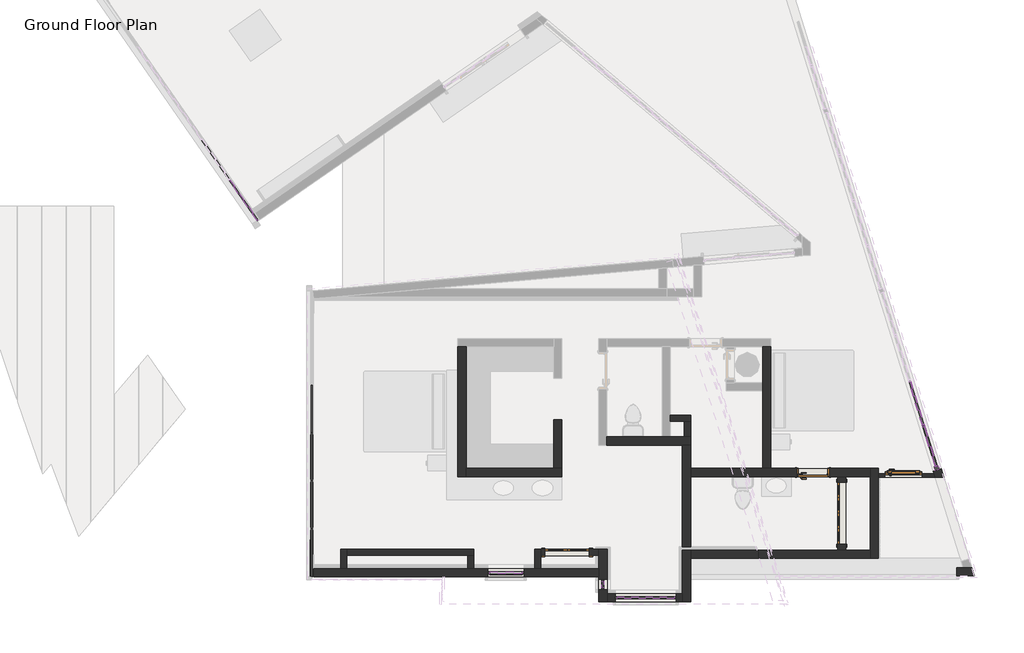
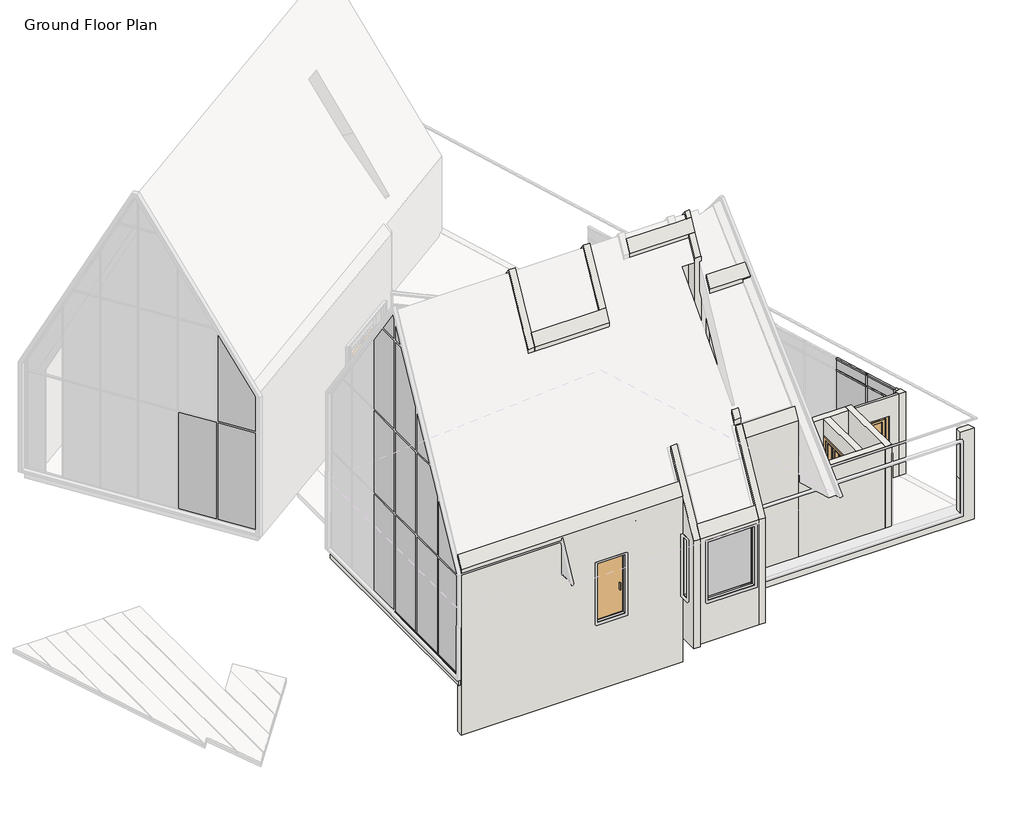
# One storey, part 1 of 5: 26 walls, 24 members, 13 plates, 5 doors.
"""IFC4 building model written with IfcOpenShell, lengths in millimetres."""

from ifc_helpers import new_model, si_unit, frame, origin, origin_with_axes, place, context, project, spatial, polyline, outline, extrude, faceted_brep, transform, mapped, element, save
from components import door_bce1670d, doors_intsgl_810x2110mm_068f3592, m_bifold_2_panel_1100mm_63e763a0, m_bifold_4_panel_1525_x_2134mm_3085d777, m_door_curtain_wall_single_glass_m_door_curtain_wall_single_5ee6a53d, rectangular_mullion_50x150mm_6ccf2dc3, rectangular_mullion_50x150mm_cb55ee1b, rectangular_mullion_50x150mm_521fa47b, rectangular_mullion_50x150mm_a32b2a5a, rectangular_mullion_50x150mm_f6aad40f, rectangular_mullion_50x150mm_72788f02, rectangular_mullion_50x150mm_d6dec429, rectangular_mullion_50x150mm_58209b6d, rectangular_mullion_50x150mm_e022757b, rectangular_mullion_50x150mm_eab01e72, rectangular_mullion_50x150mm_f2d1fef4, rectangular_mullion_50x150mm_facade_223d22c9, rectangular_mullion_50x150mm_facade_d6cc5c5f, system_panel_glazed_203c8a8a, system_panel_glazed_06d969fb, system_panel_glazed_bd7d7e7b, system_panel_glazed_7913ca13, system_panel_glazed_62bce807, system_panel_glazed_527d9985, system_panel_glazed_b040cd96, system_panel_glazed_6436783a, system_panel_glazed_77f98377, system_panel_glazed_237542c0, system_panel_opaque_e4a811f1, system_panel_opaque_52cc8dd5

model = new_model("IFC4")

# Units and contexts
model_context = context("Model", 3, world=origin())
ifc_project = project(units=[si_unit("LENGTHUNIT", "METRE", prefix="MILLI")], contexts=[model_context])

# Site, building, storey
site = spatial("IfcSite", under=ifc_project)
building = spatial("IfcBuilding", under=site)
storey = spatial("IfcBuildingStorey", under=building, Name="Ground Floor Plan", Elevation=0.0)

# Doors
placement = place(None, origin())
door_shape = door_bce1670d(model_context)
element("IfcDoor", 1, ObjectType="Doors_GEALAN_S9000_Front-Door : Doors_GEALAN_S9000_Front-Door 2", at=placement, inside=storey, context=model_context, shape_type="MappedRepresentation", body=[
    mapped(door_shape, transform((6934.1981739, -1849.1560783, 150.0), x_axis=(-1.0, 0.0, 0.0), y_axis=(0.0, -1.0, 0.0), z_axis=(0.0, 0.0, 1.0))),
])
doors_intsgl_810x2110mm_shape = doors_intsgl_810x2110mm_068f3592(model_context)
element("IfcDoor", 2, ObjectType="Doors_IntSgl : 810x2110mm", at=placement, inside=storey, context=model_context, shape_type="MappedRepresentation", body=[
    mapped(doors_intsgl_810x2110mm_shape, transform((4705.6584713, -1776.9389803, 142.0), x_axis=(1.0, 0.0, 0.0), y_axis=(0.0, 1.0, 0.0), z_axis=(0.0, 0.0, 1.0))),
])
m_bifold_2_panel_1100mm_shape = m_bifold_2_panel_1100mm_63e763a0(model_context)
element("IfcDoor", 3, ObjectType="M_Bifold-2 Panel : 1100mm", at=placement, inside=storey, context=model_context, shape_type="MappedRepresentation", body=[
    mapped(m_bifold_2_panel_1100mm_shape, transform((-1346.2135347, -3741.9389803, 150.0), x_axis=(1.0, 0.0, 0.0), y_axis=(0.0, 1.0, 0.0), z_axis=(0.0, 0.0, 1.0))),
])
m_bifold_4_panel_1525_x_2134mm_shape = m_bifold_4_panel_1525_x_2134mm_3085d777(model_context)
element("IfcDoor", 4, ObjectType="M_Bifold-4 Panel : 1525 x 2134mm", at=placement, inside=storey, context=model_context, shape_type="MappedRepresentation", body=[
    mapped(m_bifold_4_panel_1525_x_2134mm_shape, transform((5410.6584713, -2779.4389803, 150.0), x_axis=(0.0, 1.0, 0.0), y_axis=(-1.0, 0.0, 0.0), z_axis=(0.0, 0.0, 1.0))),
])
m_door_curtain_wall_single_glass_m_door_curtain_wall_single_shape = m_door_curtain_wall_single_glass_m_door_curtain_wall_single_5ee6a53d(model_context)
element("IfcDoor", 5, ObjectType="M_Door-Curtain-Wall-Single-Glass : M_Door-Curtain-Wall-Single-Glass", at=placement, inside=storey, context=model_context, shape_type="MappedRepresentation", body=[
    mapped(m_door_curtain_wall_single_glass_m_door_curtain_wall_single_shape, transform((-2852.9571443, -4244.9753259, 650.0), x_axis=(-1.0, 0.0, 0.0), y_axis=(0.0, -1.0, 0.0), z_axis=(0.0, 0.0, 1.0))),
])

# Members
rectangular_mullion_50x150mm_shape = rectangular_mullion_50x150mm_6ccf2dc3(model_context)
element("IfcMember", 6, ObjectType="Rectangular Mullion : 50x150mm", at=placement, inside=storey, context=model_context, shape_type="MappedRepresentation", body=[
    mapped(rectangular_mullion_50x150mm_shape, transform((-7628.59105, -802.0464193, 300.0), x_axis=(0.0, 0.0, -1.0), y_axis=(-1.0, 0.0, 0.0), z_axis=(0.0, 1.0, 0.0))),
])
element("IfcMember", 7, ObjectType="Rectangular Mullion : 50x150mm", at=placement, inside=storey, context=model_context, shape_type="MappedRepresentation", body=[
    mapped(rectangular_mullion_50x150mm_shape, transform((-7628.59105, -1983.0227215, 300.0), x_axis=(0.0, 0.0, -1.0), y_axis=(-1.0, 0.0, 0.0), z_axis=(0.0, 1.0, 0.0))),
])
element("IfcMember", 8, ObjectType="Rectangular Mullion : 50x150mm", at=placement, inside=storey, context=model_context, shape_type="MappedRepresentation", body=[
    mapped(rectangular_mullion_50x150mm_shape, transform((-7628.59105, -3163.9990237, 300.0), x_axis=(0.0, 0.0, -1.0), y_axis=(-1.0, 0.0, 0.0), z_axis=(0.0, 1.0, 0.0))),
])
rectangular_mullion_50x150mm_2_shape = rectangular_mullion_50x150mm_cb55ee1b(model_context)
element("IfcMember", 9, ObjectType="Rectangular Mullion : 50x150mm", at=placement, inside=storey, context=model_context, shape_type="MappedRepresentation", body=[
    mapped(rectangular_mullion_50x150mm_2_shape, transform((-2452.9571443, -4244.9753259, 2600.0), x_axis=(0.0, 0.0, 1.0), y_axis=(0.0, -1.0, 0.0), z_axis=(1.0, 0.0, 0.0))),
])
element("IfcMember", 10, ObjectType="Rectangular Mullion : 50x150mm", at=placement, inside=storey, context=model_context, shape_type="MappedRepresentation", body=[
    mapped(rectangular_mullion_50x150mm_2_shape, transform((-3252.9571443, -4244.9753259, 600.0), x_axis=(0.0, 0.0, -1.0), y_axis=(0.0, -1.0, 0.0), z_axis=(-1.0, 0.0, 0.0))),
])
rectangular_mullion_50x150mm_3_shape = rectangular_mullion_50x150mm_521fa47b(model_context)
element("IfcMember", 11, ObjectType="Rectangular Mullion : 50x150mm", at=placement, inside=storey, context=model_context, shape_type="MappedRepresentation", body=[
    mapped(rectangular_mullion_50x150mm_3_shape, transform((-3302.9571443, -4244.9753259, 2600.0), x_axis=(-1.0, 0.0, 0.0), y_axis=(0.0, -1.0, 0.0), z_axis=(0.0, 0.0, 1.0))),
])
element("IfcMember", 12, ObjectType="Rectangular Mullion : 50x150mm", at=placement, inside=storey, context=model_context, shape_type="MappedRepresentation", body=[
    mapped(rectangular_mullion_50x150mm_3_shape, transform((-163.0204162, -4852.6528425, 2600.0), x_axis=(-1.0, 0.0, 0.0), y_axis=(0.0, -1.0, 0.0), z_axis=(0.0, 0.0, 1.0))),
])
element("IfcMember", 13, ObjectType="Rectangular Mullion : 50x150mm", at=placement, inside=storey, context=model_context, shape_type="MappedRepresentation", body=[
    mapped(rectangular_mullion_50x150mm_3_shape, transform((-463.0204162, -4404.9753259, 2600.0), x_axis=(0.0, 1.0, 0.0), y_axis=(-1.0, 0.0, 0.0), z_axis=(0.0, 0.0, 1.0))),
])
element("IfcMember", 14, ObjectType="Rectangular Mullion : 50x150mm", at=placement, inside=storey, context=model_context, shape_type="MappedRepresentation", body=[
    mapped(rectangular_mullion_50x150mm_3_shape, transform((-2402.9571443, -4244.9753259, 600.0), x_axis=(1.0, 0.0, 0.0), y_axis=(0.0, -1.0, 0.0), z_axis=(0.0, 0.0, -1.0))),
])
element("IfcMember", 15, ObjectType="Rectangular Mullion : 50x150mm", at=placement, inside=storey, context=model_context, shape_type="MappedRepresentation", body=[
    mapped(rectangular_mullion_50x150mm_3_shape, transform((1336.9795838, -4852.6528425, 600.0), x_axis=(1.0, 0.0, 0.0), y_axis=(0.0, -1.0, 0.0), z_axis=(0.0, 0.0, -1.0))),
])
element("IfcMember", 16, ObjectType="Rectangular Mullion : 50x150mm", at=placement, inside=storey, context=model_context, shape_type="MappedRepresentation", body=[
    mapped(rectangular_mullion_50x150mm_3_shape, transform((-463.0204162, -4664.9753259, 600.0), x_axis=(0.0, -1.0, 0.0), y_axis=(-1.0, 0.0, 0.0), z_axis=(0.0, 0.0, -1.0))),
])
rectangular_mullion_50x150mm_4_shape = rectangular_mullion_50x150mm_a32b2a5a(model_context)
element("IfcMember", 17, ObjectType="Rectangular Mullion : 50x150mm", at=placement, inside=storey, context=model_context, shape_type="MappedRepresentation", body=[
    mapped(rectangular_mullion_50x150mm_4_shape, transform((1286.9795838, -4852.6528425, 2600.0), x_axis=(0.0, 0.0, 1.0), y_axis=(0.0, -1.0, 0.0), z_axis=(1.0, 0.0, 0.0))),
])
element("IfcMember", 18, ObjectType="Rectangular Mullion : 50x150mm", at=placement, inside=storey, context=model_context, shape_type="MappedRepresentation", body=[
    mapped(rectangular_mullion_50x150mm_4_shape, transform((-113.0204162, -4852.6528425, 600.0), x_axis=(0.0, 0.0, -1.0), y_axis=(0.0, -1.0, 0.0), z_axis=(-1.0, 0.0, 0.0))),
])
rectangular_mullion_50x150mm_5_shape = rectangular_mullion_50x150mm_f6aad40f(model_context)
element("IfcMember", 19, ObjectType="Rectangular Mullion : 50x150mm", at=placement, inside=storey, context=model_context, shape_type="MappedRepresentation", body=[
    mapped(rectangular_mullion_50x150mm_5_shape, transform((-463.0204162, -4614.9753259, 2600.0), x_axis=(0.0, 0.0, 1.0), y_axis=(-1.0, 0.0, 0.0), z_axis=(0.0, -1.0, 0.0))),
])
element("IfcMember", 20, ObjectType="Rectangular Mullion : 50x150mm", at=placement, inside=storey, context=model_context, shape_type="MappedRepresentation", body=[
    mapped(rectangular_mullion_50x150mm_5_shape, transform((-463.0204162, -4454.9753259, 600.0), x_axis=(0.0, 0.0, -1.0), y_axis=(-1.0, 0.0, 0.0), z_axis=(0.0, 1.0, 0.0))),
])
rectangular_mullion_50x150mm_6_shape = rectangular_mullion_50x150mm_72788f02(model_context)
element("IfcMember", 21, ObjectType="Rectangular Mullion : 50x150mm", at=placement, inside=storey, context=model_context, shape_type="MappedRepresentation", body=[
    mapped(rectangular_mullion_50x150mm_6_shape, transform((7420.1146461, -620.947981, 150.0), x_axis=(0.2967048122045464, -0.9549692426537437, 0.0), y_axis=(-0.9549692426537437, -0.2967048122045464, 0.0), z_axis=(0.0, 0.0, -1.0))),
])
rectangular_mullion_50x150mm_7_shape = rectangular_mullion_50x150mm_d6dec429(model_context)
element("IfcMember", 22, ObjectType="Rectangular Mullion : 50x150mm", at=placement, inside=storey, context=model_context, shape_type="MappedRepresentation", body=[
    mapped(rectangular_mullion_50x150mm_7_shape, transform((7412.6970258, -597.07375, 2900.0), x_axis=(0.0, 0.0, 1.0), y_axis=(-0.954969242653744, -0.29670481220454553, 0.0), z_axis=(0.2967048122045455, -0.9549692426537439, 0.0))),
])
rectangular_mullion_50x150mm_8_shape = rectangular_mullion_50x150mm_58209b6d(model_context)
element("IfcMember", 23, ObjectType="Rectangular Mullion : 50x150mm", at=placement, inside=storey, context=model_context, shape_type="MappedRepresentation", body=[
    mapped(rectangular_mullion_50x150mm_8_shape, transform((7420.1146461, -620.947981, 2500.0), x_axis=(0.2967048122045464, -0.9549692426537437, 0.0), y_axis=(-0.9549692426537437, -0.2967048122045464, 0.0), z_axis=(0.0, 0.0, -1.0))),
])
rectangular_mullion_50x150mm_9_shape = rectangular_mullion_50x150mm_e022757b(model_context)
element("IfcMember", 24, ObjectType="Rectangular Mullion : 50x150mm", at=placement, inside=storey, context=model_context, shape_type="MappedRepresentation", body=[
    mapped(rectangular_mullion_50x150mm_9_shape, transform((7412.6970258, -597.07375, 2500.0), x_axis=(0.0, 0.0, 1.0), y_axis=(-0.9549692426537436, -0.29670481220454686, 0.0), z_axis=(0.29670481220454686, -0.9549692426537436, 0.0))),
])
rectangular_mullion_50x150mm_10_shape = rectangular_mullion_50x150mm_eab01e72(model_context)
element("IfcMember", 25, ObjectType="Rectangular Mullion : 50x150mm", at=placement, inside=storey, context=model_context, shape_type="MappedRepresentation", body=[
    mapped(rectangular_mullion_50x150mm_10_shape, transform((7730.1870876, -1618.9420561, 2900.0), x_axis=(0.0, 0.0, 1.0), y_axis=(-0.9549692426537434, -0.29670481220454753, 0.0), z_axis=(0.29670481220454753, -0.9549692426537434, 0.0))),
])
element("IfcMember", 26, ObjectType="Rectangular Mullion : 50x150mm", at=placement, inside=storey, context=model_context, shape_type="MappedRepresentation", body=[
    mapped(rectangular_mullion_50x150mm_10_shape, transform((7427.5322665, -644.8222121, 150.0), x_axis=(0.0, 0.0, -1.0), y_axis=(-0.9549692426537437, -0.2967048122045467, 0.0), z_axis=(-0.29670481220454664, 0.9549692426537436, 0.0))),
])
rectangular_mullion_50x150mm_11_shape = rectangular_mullion_50x150mm_f2d1fef4(model_context)
element("IfcMember", 27, ObjectType="Rectangular Mullion : 50x150mm", at=placement, inside=storey, context=model_context, shape_type="MappedRepresentation", body=[
    mapped(rectangular_mullion_50x150mm_11_shape, transform((7730.1870876, -1618.9420561, 2500.0), x_axis=(0.0, 0.0, 1.0), y_axis=(-0.9549692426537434, -0.29670481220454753, 0.0), z_axis=(0.29670481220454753, -0.9549692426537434, 0.0))),
])
rectangular_mullion_50x150mm_facade_shape = rectangular_mullion_50x150mm_facade_223d22c9(model_context)
element("IfcMember", 28, ObjectType="Rectangular Mullion : 50x150mm Facade", at=placement, inside=storey, context=model_context, shape_type="MappedRepresentation", body=[
    mapped(rectangular_mullion_50x150mm_facade_shape, transform((7759.8575689, -1714.4389803, 150.0), x_axis=(0.2967048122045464, -0.9549692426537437, 0.0), y_axis=(-0.9549692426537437, -0.2967048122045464, 0.0), z_axis=(0.0, 0.0, -1.0))),
])
rectangular_mullion_50x150mm_facade_2_shape = rectangular_mullion_50x150mm_facade_d6cc5c5f(model_context)
element("IfcMember", 29, ObjectType="Rectangular Mullion : 50x150mm Facade", at=placement, inside=storey, context=model_context, shape_type="MappedRepresentation", body=[
    mapped(rectangular_mullion_50x150mm_facade_2_shape, transform((7759.8575689, -1714.4389803, 2500.0), x_axis=(0.2967048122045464, -0.9549692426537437, 0.0), y_axis=(-0.9549692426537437, -0.2967048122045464, 0.0), z_axis=(0.0, 0.0, -1.0))),
])

# Plates
system_panel_glazed_shape = system_panel_glazed_203c8a8a(model_context)
element("IfcPlate", 30, ObjectType="System Panel : Glazed", at=placement, inside=storey, context=model_context, shape_type="MappedRepresentation", body=[
    mapped(system_panel_glazed_shape, transform((-9303.4615188, 4925.8655083, 3609.3032525), x_axis=(0.5689311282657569, -0.8223851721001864, 0.0), y_axis=(0.8223851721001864, 0.5689311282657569, 0.0), z_axis=(0.0, 0.0, 1.0))),
])
system_panel_glazed_2_shape = system_panel_glazed_06d969fb(model_context)
element("IfcPlate", 31, ObjectType="System Panel : Glazed", at=placement, inside=storey, context=model_context, shape_type="MappedRepresentation", body=[
    mapped(system_panel_glazed_2_shape, transform((-9991.6953626, 5920.7017547, 350.0), x_axis=(0.5689311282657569, -0.8223851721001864, 0.0), y_axis=(0.8223851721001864, 0.5689311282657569, 0.0), z_axis=(0.0, 0.0, 1.0))),
])
element("IfcPlate", 32, ObjectType="System Panel : Glazed", at=placement, inside=storey, context=model_context, shape_type="MappedRepresentation", body=[
    mapped(system_panel_glazed_2_shape, transform((-9303.4615188, 4925.8655083, 350.0), x_axis=(0.5689311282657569, -0.8223851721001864, 0.0), y_axis=(0.8223851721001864, 0.5689311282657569, 0.0), z_axis=(0.0, 0.0, 1.0))),
])
system_panel_glazed_3_shape = system_panel_glazed_bd7d7e7b(model_context)
element("IfcPlate", 33, ObjectType="System Panel : Glazed", at=placement, inside=storey, context=model_context, shape_type="MappedRepresentation", body=[
    mapped(system_panel_glazed_3_shape, transform((-7628.59105, -2573.5108726, 350.0), x_axis=(0.0, -1.0, 0.0), y_axis=(1.0, 0.0, 0.0), z_axis=(0.0, 0.0, 1.0))),
])
system_panel_glazed_4_shape = system_panel_glazed_7913ca13(model_context)
element("IfcPlate", 34, ObjectType="System Panel : Glazed", at=placement, inside=storey, context=model_context, shape_type="MappedRepresentation", body=[
    mapped(system_panel_glazed_4_shape, transform((-7628.59105, -3754.4871748, 350.0), x_axis=(0.0, -1.0, 0.0), y_axis=(1.0, 0.0, 0.0), z_axis=(0.0, 0.0, 1.0))),
])
system_panel_glazed_5_shape = system_panel_glazed_62bce807(model_context)
element("IfcPlate", 35, ObjectType="System Panel : Glazed", at=placement, inside=storey, context=model_context, shape_type="MappedRepresentation", body=[
    mapped(system_panel_glazed_5_shape, transform((586.9795838, -4852.6528425, 650.0), x_axis=(1.0, 0.0, 0.0), y_axis=(0.0, 1.0, 0.0), z_axis=(0.0, 0.0, 1.0))),
])
system_panel_glazed_6_shape = system_panel_glazed_527d9985(model_context)
element("IfcPlate", 36, ObjectType="System Panel : Glazed", at=placement, inside=storey, context=model_context, shape_type="MappedRepresentation", body=[
    mapped(system_panel_glazed_6_shape, transform((-7628.59105, -1392.5345704, 350.0), x_axis=(0.0, -1.0, 0.0), y_axis=(1.0, 0.0, 0.0), z_axis=(0.0, 0.0, 1.0))),
])
system_panel_glazed_7_shape = system_panel_glazed_b040cd96(model_context)
element("IfcPlate", 37, ObjectType="System Panel : Glazed", at=placement, inside=storey, context=model_context, shape_type="MappedRepresentation", body=[
    mapped(system_panel_glazed_7_shape, transform((-7628.59105, -218.2249349, 350.0), x_axis=(0.0, -1.0, 0.0), y_axis=(1.0, 0.0, 0.0), z_axis=(0.0, 0.0, 1.0))),
])
system_panel_glazed_8_shape = system_panel_glazed_6436783a(model_context)
element("IfcPlate", 38, ObjectType="System Panel : Glazed", at=placement, inside=storey, context=model_context, shape_type="MappedRepresentation", body=[
    mapped(system_panel_glazed_8_shape, transform((-463.0204162, -4534.9753259, 650.0), x_axis=(0.0, -1.0, 0.0), y_axis=(1.0, 0.0, 0.0), z_axis=(0.0, 0.0, 1.0))),
])
system_panel_glazed_9_shape = system_panel_glazed_77f98377(model_context)
element("IfcPlate", 39, ObjectType="System Panel : Glazed", at=placement, inside=storey, context=model_context, shape_type="MappedRepresentation", body=[
    mapped(system_panel_glazed_9_shape, transform((7248.2553666, -67.8045224, 200.0), x_axis=(0.2967048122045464, -0.9549692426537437, 0.0), y_axis=(0.9549692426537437, 0.2967048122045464, 0.0), z_axis=(0.0, 0.0, 1.0))),
])
system_panel_glazed_10_shape = system_panel_glazed_237542c0(model_context)
element("IfcPlate", 40, ObjectType="System Panel : Glazed", at=placement, inside=storey, context=model_context, shape_type="MappedRepresentation", body=[
    mapped(system_panel_glazed_10_shape, transform((7578.859677, -1131.8821341, 200.0), x_axis=(0.2967048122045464, -0.9549692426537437, 0.0), y_axis=(0.9549692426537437, 0.2967048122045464, 0.0), z_axis=(0.0, 0.0, 1.0))),
])
system_panel_opaque_shape = system_panel_opaque_e4a811f1(model_context)
element("IfcPlate", 41, ObjectType="System Panel : Opaque", at=placement, inside=storey, context=model_context, shape_type="MappedRepresentation", body=[
    mapped(system_panel_opaque_shape, transform((7248.2553666, -67.8045224, 2525.0), x_axis=(0.2967048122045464, -0.9549692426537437, 0.0), y_axis=(0.9549692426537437, 0.2967048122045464, 0.0), z_axis=(0.0, 0.0, 1.0))),
])
system_panel_opaque_2_shape = system_panel_opaque_52cc8dd5(model_context)
element("IfcPlate", 42, ObjectType="System Panel : Opaque", at=placement, inside=storey, context=model_context, shape_type="MappedRepresentation", body=[
    mapped(system_panel_opaque_2_shape, transform((7578.859677, -1131.8821341, 2525.0), x_axis=(0.2967048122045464, -0.9549692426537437, 0.0), y_axis=(0.9549692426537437, 0.2967048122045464, 0.0), z_axis=(0.0, 0.0, 1.0))),
])

# Walls
element("IfcWall", 43, ObjectType="Dwarf wall", at=placement, inside=storey, context=model_context, shape_type="SweptSolid", body=[
    extrude(outline(polyline([(-7607.9571443, 2695.1890714), (-7607.9571443, -4344.9753259), (-7657.9571443, -4344.9753259), (-7657.9571443, 2695.1890714), (-7607.9571443, 2695.1890714)])), origin_with_axes(), (0.0, 0.0, 1.0), 300.0),
])
element("IfcWall", 44, ObjectType="DEFAULT lesser width", at=placement, inside=storey, context=model_context, shape_type="Brep", body=[
    faceted_brep([(1190.6584713, -511.9389803, 0.0), (1540.6584713, -511.9389803, 0.0), (1690.6584713, -511.9389803, 0.0), (1690.6584713, -511.9389803, 10094.2469845), (1540.6584713, -511.9389803, 10094.2469845), (1190.6584713, -511.9389803, 10094.2469845), (1190.6584713, -361.9389803, 0.0), (1190.6584713, -361.9389803, 9884.4524597), (1690.6584713, -361.9389803, 9884.4524597), (1690.6584713, -361.9389803, 0.0)], [[[0, 1, 2, 3, 4, 5]], [[6, 7, 8, 9]], [[2, 1, 0, 6, 9]], [[0, 5, 7, 6]], [[3, 2, 9, 8]], [[5, 4, 3, 8, 7]]]),
])
element("IfcWall", 45, ObjectType="DEFAULT lesser width", at=placement, inside=storey, context=model_context, shape_type="SweptSolid", body=[
    extrude(outline(polyline([(-511.9389803, 0.0), (-902.1977908, 0.0), (-902.1977908, 10312.086412), (-802.0464193, 10500.0), (-511.9389803, 10094.2469845), (-511.9389803, 0.0)])), frame((1540.6584713, 0.0, 0.0), z_axis=(1.0, 0.0, 0.0), x_axis=(0.0, 1.0, 0.0)), (0.0, 0.0, 1.0), 150.0),
])
element("IfcWall", 46, ObjectType="DEFAULT lesser width", at=placement, inside=storey, context=model_context, shape_type="Brep", body=[
    faceted_brep([(-6760.4571443, -4144.9753259, 0.0), (-6760.4571443, -3816.9389803, 0.0), (-6760.4571443, -3666.9389803, 0.0), (-6760.4571443, -3666.9389803, 3200.0), (-6760.4571443, -3816.9389803, 3200.0), (-6760.4571443, -4144.9753259, 3200.0), (-6910.4571443, -4144.9753259, 0.0), (-6910.4571443, -4144.9753259, 3200.0), (-6910.4571443, -3666.9389803, 3200.0), (-6910.4571443, -3666.9389803, 0.0)], [[[0, 1, 2, 3, 4, 5]], [[6, 7, 8, 9]], [[2, 1, 0, 6, 9]], [[5, 4, 3, 8, 7]], [[0, 5, 7, 6]], [[3, 2, 9, 8]]]),
])
element("IfcWall", 47, ObjectType="DEFAULT lesser width", at=placement, inside=storey, context=model_context, shape_type="Brep", body=[
    faceted_brep([(-6760.4571443, -3816.9389803, 0.0), (-3790.4571443, -3816.9389803, 0.0), (-3640.4571443, -3816.9389803, 0.0), (-3640.4571443, -3816.9389803, 3200.0), (-3790.4571443, -3816.9389803, 3200.0), (-6760.4571443, -3816.9389803, 3200.0), (-6760.4571443, -3666.9389803, 0.0), (-6760.4571443, -3666.9389803, 3200.0), (-3640.4571443, -3666.9389803, 3200.0), (-3640.4571443, -3666.9389803, 0.0)], [[[0, 1, 2, 3, 4, 5]], [[6, 7, 8, 9]], [[2, 1, 0, 6, 9]], [[5, 4, 3, 8, 7]], [[0, 5, 7, 6]], [[3, 2, 9, 8]]]),
])
element("IfcWall", 48, ObjectType="DEFAULT lesser width", at=placement, inside=storey, context=model_context, shape_type="SweptSolid", body=[
    extrude(outline(polyline([(-3790.4571443, -4144.9753259), (-3790.4571443, -3816.9389803), (-3640.4571443, -3816.9389803), (-3640.4571443, -4144.9753259), (-3790.4571443, -4144.9753259)])), origin_with_axes(), (0.0, 0.0, 1.0), 3200.0),
])
element("IfcWall", 49, ObjectType="DEFAULT lesser width", at=placement, inside=storey, context=model_context, shape_type="Brep", body=[
    faceted_brep([(-1996.2135347, -4144.9753259, 0.0), (-1996.2135347, -3816.9389803, 0.0), (-1996.2135347, -3666.9389803, 0.0), (-1996.2135347, -3666.9389803, 3200.0), (-1996.2135347, -3816.9389803, 3200.0), (-1996.2135347, -4144.9753259, 3200.0), (-2146.2135347, -4144.9753259, 0.0), (-2146.2135347, -4144.9753259, 3200.0), (-2146.2135347, -3666.9389803, 3200.0), (-2146.2135347, -3666.9389803, 0.0)], [[[0, 1, 2, 3, 4, 5]], [[6, 7, 8, 9]], [[2, 1, 0, 6, 9]], [[5, 4, 3, 8, 7]], [[0, 5, 7, 6]], [[3, 2, 9, 8]]]),
])
element("IfcWall", 50, ObjectType="DEFAULT lesser width", at=placement, inside=storey, context=model_context, shape_type="SweptSolid", body=[
    extrude(outline(polyline([(0.0, -1996.2135347), (0.0, -563.0204162), (3200.0, -563.0204162), (3200.0, -1996.2135347), (0.0, -1996.2135347)]), holes=[polyline([(150.0, -1896.2135347), (2284.0, -1896.2135347), (2284.0, -796.2135347), (150.0, -796.2135347), (150.0, -1896.2135347)])]), frame((0.0, -3816.9389803, 0.0), z_axis=(0.0, 1.0, 0.0), x_axis=(0.0, 0.0, 1.0)), (0.0, 0.0, 1.0), 150.0),
])
element("IfcWall", 51, ObjectType="DEFAULT lesser width 3", at=placement, inside=storey, context=model_context, shape_type="Brep", body=[
    faceted_brep([(7685.3470862, -1811.6560783, 0.0), (6316.9981739, -1811.6560783, 0.0), (6316.9981739, -1811.6560783, 2900.0), (7685.3470862, -1811.6560783, 2900.0), (6474.1981739, -1811.6560783, 2260.0), (6474.1981739, -1811.6560783, 150.0), (7394.1981739, -1811.6560783, 150.0), (7394.1981739, -1811.6560783, 2260.0), (6316.9981739, -1886.6560783, 0.0), (7708.6492617, -1886.6560783, 0.0), (7708.6492617, -1886.6560783, 150.0), (7708.6492617, -1886.6560783, 2900.0), (6316.9981739, -1886.6560783, 2900.0), (6474.1981739, -1886.6560783, 150.0), (6474.1981739, -1886.6560783, 2260.0), (7394.1981739, -1886.6560783, 2260.0), (7394.1981739, -1886.6560783, 150.0)], [[[0, 1, 2, 3], [4, 5, 6, 7]], [[8, 9, 10, 11, 12], [13, 14, 15, 16]], [[1, 0, 9, 8]], [[2, 1, 8, 12]], [[3, 2, 12, 11]], [[9, 0, 3, 11, 10]], [[13, 5, 4, 14]], [[14, 4, 7, 15]], [[15, 7, 6, 16]], [[5, 13, 16, 6]]]),
])
element("IfcWall", 52, ObjectType="DEFAULT", at=placement, inside=storey, context=model_context, shape_type="Brep", body=[
    faceted_brep([(-7582.9571443, -4344.9753259, -1681.6922227), (-563.0204162, -4344.9753259, -1681.6922227), (-563.0204162, -4344.9753259, 3852.4177172), (-7582.9571443, -4344.9753259, 3852.4177172), (-3302.9571443, -4344.9753259, 600.0), (-3302.9571443, -4344.9753259, 2600.0), (-2402.9571443, -4344.9753259, 2600.0), (-2402.9571443, -4344.9753259, 600.0), (-563.0204162, -4144.9753259, -1681.6922227), (-7582.9571443, -4144.9753259, -1681.6922227), (-7582.9571443, -4144.9753259, 4227.6768577), (-563.0204162, -4144.9753259, 4227.6768577), (-3302.9571443, -4144.9753259, 2600.0), (-3302.9571443, -4144.9753259, 600.0), (-2402.9571443, -4144.9753259, 600.0), (-2402.9571443, -4144.9753259, 2600.0)], [[[0, 1, 2, 3], [4, 5, 6, 7]], [[8, 9, 10, 11], [12, 13, 14, 15]], [[1, 0, 9, 8]], [[0, 3, 10, 9]], [[2, 1, 8, 11]], [[4, 13, 12, 5]], [[5, 12, 15, 6]], [[6, 15, 14, 7]], [[13, 4, 7, 14]], [[3, 2, 11, 10]]]),
])
element("IfcWall", 53, ObjectType="DEFAULT", at=placement, inside=storey, context=model_context, shape_type="Brep", body=[
    faceted_brep([(-363.0204162, -4952.6528425, -880.5665606), (-363.0204162, -3666.9389803, -880.5665606), (-363.0204162, -3666.9389803, 5124.6143986), (-363.0204162, -4752.6528425, 3087.4941445), (-363.0204162, -4952.6528425, 2712.2350039), (-363.0204162, -4952.6528425, -801.2602677), (-363.0204162, -4404.9753259, 2600.0), (-363.0204162, -4404.9753259, 600.0), (-363.0204162, -4664.9753259, 600.0), (-363.0204162, -4664.9753259, 2600.0), (-563.0204162, -3666.9389803, -880.5665606), (-563.0204162, -4952.6528425, -880.5665606), (-563.0204162, -4952.6528425, 2712.2350039), (-563.0204162, -4344.9753259, 3852.4177172), (-563.0204162, -4144.9753259, 4227.6768577), (-563.0204162, -3666.9389803, 5124.6143986), (-563.0204162, -3666.9389803, 3200.0), (-563.0204162, -3666.9389803, 0.0), (-563.0204162, -4404.9753259, 600.0), (-563.0204162, -4404.9753259, 2600.0), (-563.0204162, -4664.9753259, 2600.0), (-563.0204162, -4664.9753259, 600.0)], [[[0, 1, 2, 3, 4, 5], [6, 7, 8, 9]], [[10, 11, 12, 13, 14, 15, 16, 17], [18, 19, 20, 21]], [[1, 0, 11, 10]], [[4, 3, 2, 15, 14, 13, 12]], [[0, 5, 4, 12, 11]], [[18, 7, 6, 19]], [[19, 6, 9, 20]], [[20, 9, 8, 21]], [[7, 18, 21, 8]], [[2, 1, 10, 17, 16, 15]]]),
])
element("IfcWall", 54, ObjectType="DEFAULT", at=placement, inside=storey, context=model_context, shape_type="Brep", body=[
    faceted_brep([(1690.6584713, -4952.6528425, -800.9909882), (1690.6584713, -3681.9389803, -800.9909882), (1690.6584713, -3681.9389803, 0.0), (1690.6584713, -3681.9389803, 5096.4699631), (1690.6584713, -3881.9389803, 4721.2108225), (1690.6584713, -4952.6528425, 2712.2350039), (1490.6584713, -4952.6528425, -800.9909882), (1490.6584713, -4952.6528425, 2712.2350039), (1490.6584713, -4752.6528425, 3087.4941445), (1490.6584713, -3681.9389803, 5096.4699631), (1490.6584713, -3681.9389803, -800.9909882)], [[[0, 1, 2, 3, 4, 5]], [[6, 7, 8, 9, 10]], [[1, 0, 6, 10]], [[3, 2, 1, 10, 9]], [[5, 4, 3, 9, 8, 7]], [[0, 5, 7, 6]]]),
])
element("IfcWall", 55, ObjectType="DEFAULT", at=placement, inside=storey, context=model_context, shape_type="Brep", body=[
    faceted_brep([(1690.6584713, -3881.9389803, 0.0), (3357.324405, -3881.9389803, 0.0), (3357.324405, -3881.9389803, 2900.0), (3357.324405, -3881.9389803, 4721.2108225), (1690.6584713, -3881.9389803, 4721.2108225), (1690.6584713, -3681.9389803, 0.0), (1690.6584713, -3681.9389803, 5096.4699631), (3357.324405, -3681.9389803, 5096.4699631), (3357.324405, -3681.9389803, 2900.0), (3357.324405, -3681.9389803, 0.0)], [[[0, 1, 2, 3, 4]], [[5, 6, 7, 8, 9]], [[1, 0, 5, 9]], [[3, 2, 1, 9, 8, 7]], [[0, 4, 6, 5]], [[4, 3, 7, 6]]]),
])
element("IfcWall", 56, ObjectType="DEFAULT", at=placement, inside=storey, context=model_context, shape_type="Brep", body=[
    faceted_brep([(6310.6584713, -3881.9389803, 0.0), (6310.6584713, -1676.9389803, 0.0), (6310.6584713, -1676.9389803, 2900.0), (6310.6584713, -3881.9389803, 2900.0), (6110.6584713, -3881.9389803, 0.0), (6110.6584713, -3881.9389803, 2900.0), (6110.6584713, -3681.9389803, 2900.0), (6110.6584713, -1876.9389803, 2900.0), (6110.6584713, -1676.9389803, 2900.0), (6110.6584713, -1676.9389803, 0.0), (6110.6584713, -1876.9389803, 0.0), (6110.6584713, -3681.9389803, 0.0)], [[[0, 1, 2, 3]], [[4, 5, 6, 7, 8, 9, 10, 11]], [[1, 0, 4, 11, 10, 9]], [[2, 1, 9, 8]], [[3, 2, 8, 7, 6, 5]], [[0, 3, 5, 4]]]),
])
element("IfcWall", 57, ObjectType="DEFAULT", at=placement, inside=storey, context=model_context, shape_type="Brep", body=[
    faceted_brep([(6110.6584713, -1676.9389803, 0.0), (3668.7864653, -1676.9389803, 0.0), (3468.7864653, -1676.9389803, 0.0), (1690.6584713, -1676.9389803, 0.0), (1690.6584713, -1676.9389803, 2900.0), (1712.8252801, -1676.9389803, 2900.0), (1712.8252801, -1676.9389803, 8858.4428473), (2961.1844397, -1676.9389803, 8858.4428473), (2961.1844397, -1676.9389803, 2900.0), (3468.7864653, -1676.9389803, 2900.0), (3668.7864653, -1676.9389803, 2900.0), (6110.6584713, -1676.9389803, 2900.0), (5110.6584713, -1676.9389803, 150.0), (5110.6584713, -1676.9389803, 2252.0), (4300.6584713, -1676.9389803, 2252.0), (4300.6584713, -1676.9389803, 150.0), (1690.6584713, -1876.9389803, 0.0), (5310.6584713, -1876.9389803, 0.0), (5510.6584713, -1876.9389803, 0.0), (6110.6584713, -1876.9389803, 0.0), (6110.6584713, -1876.9389803, 2900.0), (5510.6584713, -1876.9389803, 2900.0), (5310.6584713, -1876.9389803, 2900.0), (3023.9495686, -1876.9389803, 2900.0), (3023.9495686, -1876.9389803, 8483.1837067), (1712.8252801, -1876.9389803, 8483.1837067), (1712.8252801, -1876.9389803, 2900.0), (1690.6584713, -1876.9389803, 2900.0), (5110.6584713, -1876.9389803, 2252.0), (5110.6584713, -1876.9389803, 150.0), (4300.6584713, -1876.9389803, 150.0), (4300.6584713, -1876.9389803, 2252.0)], [[[0, 1, 2, 3, 4, 5, 6, 7, 8, 9, 10, 11], [12, 13, 14, 15]], [[16, 17, 18, 19, 20, 21, 22, 23, 24, 25, 26, 27], [28, 29, 30, 31]], [[3, 2, 1, 0, 19, 18, 17, 16]], [[0, 11, 20, 19]], [[24, 23, 8, 7]], [[20, 11, 10, 9, 8, 23, 22, 21]], [[4, 3, 16, 27]], [[12, 29, 28, 13]], [[13, 28, 31, 14]], [[14, 31, 30, 15]], [[29, 12, 15, 30]], [[4, 27, 26, 5]], [[6, 5, 26, 25]], [[7, 6, 25, 24]]]),
])
element("IfcWall", 58, ObjectType="DEFAULT", at=placement, inside=storey, context=model_context, shape_type="SweptSolid", body=[
    extrude(outline(polyline([(-1876.9389803, 0.0), (-3681.9389803, 0.0), (-3681.9389803, 2900.0), (-1876.9389803, 2900.0), (-1876.9389803, 0.0)]), holes=[polyline([(-2016.9389803, 150.0), (-2016.9389803, 2284.0), (-3541.9389803, 2284.0), (-3541.9389803, 150.0), (-2016.9389803, 150.0)])]), frame((5310.6584713, 0.0, 0.0), z_axis=(1.0, 0.0, 0.0), x_axis=(0.0, 1.0, 0.0)), (0.0, 0.0, 1.0), 200.0),
])
element("IfcWall", 59, ObjectType="DEFAULT", at=placement, inside=storey, context=model_context, shape_type="Brep", body=[
    faceted_brep([(8610.3218378, -4114.6940133, -150.0), (8400.891009, -4114.6940133, -150.0), (1690.6584713, -4114.6940133, -150.0), (1690.6584713, -4114.6940133, 150.0), (8236.6759907, -4114.6940133, 150.0), (8236.6759907, -4114.6940133, 1300.0), (8236.6759907, -4114.6940133, 2900.0), (8400.891009, -4114.6940133, 2900.0), (8610.3218378, -4114.6940133, 2900.0), (8672.4609725, -4314.6940133, -150.0), (8672.4609725, -4314.6940133, 2900.0), (8236.6759907, -4314.6940133, 2900.0), (8236.6759907, -4314.6940133, 1300.0), (8236.6759907, -4314.6940133, 150.0), (1690.6584713, -4314.6940133, 150.0), (1690.6584713, -4314.6940133, -150.0)], [[[0, 1, 2, 3, 4, 5, 6, 7, 8]], [[9, 10, 11, 12, 13, 14, 15]], [[3, 2, 15, 14]], [[8, 7, 6, 11, 10]], [[4, 3, 14, 13]], [[5, 4, 13, 12]], [[6, 5, 12, 11]], [[0, 8, 10, 9]], [[2, 1, 0, 9, 15]]]),
])
element("IfcWall", 60, ObjectType="DEFAULT", at=placement, inside=storey, context=model_context, shape_type="Brep", body=[
    faceted_brep([(1490.6584713, -4752.6528425, -801.2602677), (-363.0204162, -4752.6528425, -801.2602677), (-363.0204162, -4752.6528425, 3087.4941445), (1490.6584713, -4752.6528425, 3087.4941445), (-163.0204162, -4752.6528425, 2600.0), (-163.0204162, -4752.6528425, 600.0), (1336.9795838, -4752.6528425, 600.0), (1336.9795838, -4752.6528425, 2600.0), (-363.0204162, -4952.6528425, -801.2602677), (1490.6584713, -4952.6528425, -801.2602677), (1490.6584713, -4952.6528425, -800.9909882), (1490.6584713, -4952.6528425, 2712.2350039), (-363.0204162, -4952.6528425, 2712.2350039), (-163.0204162, -4952.6528425, 600.0), (-163.0204162, -4952.6528425, 2600.0), (1336.9795838, -4952.6528425, 2600.0), (1336.9795838, -4952.6528425, 600.0)], [[[0, 1, 2, 3], [4, 5, 6, 7]], [[8, 9, 10, 11, 12], [13, 14, 15, 16]], [[1, 0, 9, 8]], [[2, 1, 8, 12]], [[0, 3, 11, 10, 9]], [[3, 2, 12, 11]], [[13, 5, 4, 14]], [[14, 4, 7, 15]], [[15, 7, 6, 16]], [[5, 13, 16, 6]]]),
])
element("IfcWall", 61, ObjectType="DEFAULT", at=placement, inside=storey, context=model_context, shape_type="Brep", body=[
    faceted_brep([(6110.6584713, -3681.9389803, 0.0), (5510.6584713, -3681.9389803, 0.0), (5310.6584713, -3681.9389803, 0.0), (3357.324405, -3681.9389803, 0.0), (3357.324405, -3681.9389803, 2900.0), (3590.404857, -3681.9389803, 2900.0), (5310.6584713, -3681.9389803, 2900.0), (5510.6584713, -3681.9389803, 2900.0), (6110.6584713, -3681.9389803, 2900.0), (6110.6584713, -3881.9389803, 0.0), (6110.6584713, -3881.9389803, 2900.0), (3653.1699859, -3881.9389803, 2900.0), (3357.324405, -3881.9389803, 2900.0), (3357.324405, -3881.9389803, 0.0)], [[[0, 1, 2, 3, 4, 5, 6, 7, 8]], [[9, 10, 11, 12, 13]], [[3, 2, 1, 0, 9, 13]], [[4, 3, 13, 12]], [[0, 8, 10, 9]], [[5, 4, 12, 11]], [[8, 7, 6, 5, 11, 10]]]),
])
element("IfcWall", 62, ObjectType="DEFAULT", at=placement, inside=storey, context=model_context, shape_type="Brep", body=[
    faceted_brep([(-4031.2135347, 1317.8022092, 0.0), (-4031.2135347, -1876.9389803, 0.0), (-4031.2135347, -1876.9389803, 8483.1837067), (-4031.2135347, -802.0464193, 10500.0), (-4031.2135347, 1317.8022092, 7535.1157612), (-3831.2135347, 1317.8022092, 0.0), (-3831.2135347, 1317.8022092, 7535.1157612), (-3831.2135347, -802.0464193, 10500.0), (-3831.2135347, -1676.9389803, 8858.4428473), (-3831.2135347, -1876.9389803, 8483.1837067), (-3831.2135347, -1876.9389803, 0.0), (-3831.2135347, -1676.9389803, 0.0)], [[[0, 1, 2, 3, 4]], [[5, 6, 7, 8, 9, 10, 11]], [[1, 0, 5, 11, 10]], [[0, 4, 6, 5]], [[2, 1, 10, 9]], [[4, 3, 7, 6]], [[3, 2, 9, 8, 7]]]),
])
element("IfcWall", 63, ObjectType="DEFAULT", at=placement, inside=storey, context=model_context, shape_type="Brep", body=[
    faceted_brep([(-3831.2135347, -1876.9389803, 0.0), (-1471.2135347, -1876.9389803, 0.0), (-1471.2135347, -1876.9389803, 8483.1837067), (-3831.2135347, -1876.9389803, 8483.1837067), (-3831.2135347, -1676.9389803, 0.0), (-3831.2135347, -1676.9389803, 8858.4428473), (-1671.2135347, -1676.9389803, 8858.4428473), (-1471.2135347, -1676.9389803, 8858.4428473), (-1471.2135347, -1676.9389803, 0.0), (-1671.2135347, -1676.9389803, 0.0)], [[[0, 1, 2, 3]], [[4, 5, 6, 7, 8, 9]], [[1, 0, 4, 9, 8]], [[0, 3, 5, 4]], [[2, 1, 8, 7]], [[3, 2, 7, 6, 5]]]),
])
element("IfcWall", 64, ObjectType="DEFAULT", at=placement, inside=storey, context=model_context, shape_type="SweptSolid", body=[
    extrude(outline(polyline([(-1676.9389803, 0.0), (-1676.9389803, 8858.4428473), (-802.0464193, 10500.0), (-476.9389803, 10045.2949287), (-476.9389803, 0.0), (-1676.9389803, 0.0)])), frame((-1671.2135347, 0.0, 0.0), z_axis=(1.0, 0.0, 0.0), x_axis=(0.0, 1.0, 0.0)), (0.0, 0.0, 1.0), 200.0),
])
element("IfcWall", 65, ObjectType="DEFAULT", at=placement, inside=storey, context=model_context, shape_type="Brep", body=[
    faceted_brep([(-371.2135347, -1102.1977908, 0.0), (1490.6584713, -1102.1977908, 0.0), (1690.6584713, -1102.1977908, 0.0), (1690.6584713, -1102.1977908, 9936.8272715), (1490.6584713, -1102.1977908, 9936.8272715), (-371.2135347, -1102.1977908, 9936.8272715), (-371.2135347, -902.1977908, 0.0), (-371.2135347, -902.1977908, 10312.086412), (990.6584713, -902.1977908, 10312.086412), (1190.6584713, -902.1977908, 10312.086412), (1540.6584713, -902.1977908, 10312.086412), (1690.6584713, -902.1977908, 10312.086412), (1690.6584713, -902.1977908, 0.0), (1540.6584713, -902.1977908, 0.0), (1190.6584713, -902.1977908, 0.0), (990.6584713, -902.1977908, 0.0)], [[[0, 1, 2, 3, 4, 5]], [[6, 7, 8, 9, 10, 11, 12, 13, 14, 15]], [[2, 1, 0, 6, 15, 14, 13, 12]], [[0, 5, 7, 6]], [[3, 2, 12, 11]], [[5, 4, 3, 11, 10, 9, 8, 7]]]),
])
element("IfcWall", 66, ObjectType="DEFAULT", at=placement, inside=storey, context=model_context, shape_type="Brep", body=[
    faceted_brep([(3468.7864653, 1317.8022092, 0.0), (3468.7864653, 437.8022092, 0.0), (3468.7864653, 237.8022092, 0.0), (3468.7864653, -1676.9389803, 0.0), (3468.7864653, -1676.9389803, 2900.0), (3468.7864653, 237.8022092, 2900.0), (3468.7864653, 437.8022092, 2900.0), (3468.7864653, 1317.8022092, 2900.0), (3668.7864653, 1317.8022092, 0.0), (3668.7864653, 1317.8022092, 2900.0), (3668.7864653, -1676.9389803, 2900.0), (3668.7864653, -1676.9389803, 0.0)], [[[0, 1, 2, 3, 4, 5, 6, 7]], [[8, 9, 10, 11]], [[3, 2, 1, 0, 8, 11]], [[0, 7, 9, 8]], [[4, 3, 11, 10]], [[7, 6, 5, 4, 10, 9]]]),
])
element("IfcWall", 67, ObjectType="DEFAULT", at=placement, inside=storey, context=model_context, shape_type="Brep", body=[
    faceted_brep([(1490.6584713, -1102.1977908, 0.0), (1490.6584713, -3606.9389803, 0.0), (1490.6584713, -3606.9389803, 5237.1921408), (1490.6584713, -3469.4389803, 5495.1827999), (1490.6584713, -3469.4389803, 3200.0), (1490.6584713, -1440.3456679, 3200.0), (1490.6584713, -1440.3456679, 9334.2540131), (1490.6584713, -1423.348267, 9334.2540131), (1490.6584713, -1102.1977908, 9936.8272715), (1690.6584713, -1102.1977908, 0.0), (1690.6584713, -1102.1977908, 9936.8272715), (1690.6584713, -1423.348267, 9334.2540131), (1690.6584713, -1440.3456679, 9334.2540131), (1690.6584713, -1440.3456679, 3200.0), (1690.6584713, -3469.4389803, 3200.0), (1690.6584713, -3469.4389803, 5495.1827999), (1690.6584713, -3606.9389803, 5237.1921408), (1690.6584713, -3606.9389803, 0.0), (1690.6584713, -1876.9389803, 0.0), (1690.6584713, -1676.9389803, 0.0), (1514.163403, -3469.4389803, 5495.1827999)], [[[0, 1, 2, 3, 4, 5, 6, 7, 8]], [[9, 10, 11, 12, 13, 14, 15, 16, 17, 18, 19]], [[1, 0, 9, 19, 18, 17]], [[2, 1, 17, 16]], [[0, 8, 10, 9]], [[3, 20, 15, 14, 4]], [[5, 4, 14, 13]], [[5, 13, 12, 6]], [[3, 2, 16, 15, 20]], [[7, 6, 12, 11]], [[8, 7, 11, 10]]]),
])
element("IfcWall", 68, ObjectType="DEFAULT 6", at=placement, inside=storey, context=model_context, shape_type="Brep", body=[
    faceted_brep([(7664.3606446, -1744.1094616, 150.0), (7708.6492617, -1886.6560783, 150.0), (7708.6492617, -1886.6560783, 2900.0), (7685.3470862, -1811.6560783, 2900.0), (7664.3606446, -1744.1094616, 2900.0), (7855.3544931, -1684.7684991, 150.0), (7855.3544931, -1684.7684991, 2900.0), (7918.0800905, -1886.6560783, 2900.0), (7918.0800905, -1886.6560783, 150.0)], [[[0, 1, 2, 3, 4]], [[5, 6, 7, 8]], [[1, 0, 5, 8]], [[4, 3, 2, 7, 6]], [[0, 4, 6, 5]], [[1, 8, 7, 2]]]),
])

save(model, "model.ifc")
